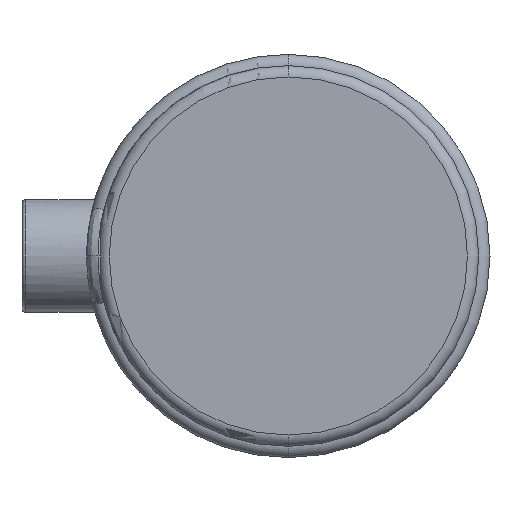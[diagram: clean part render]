
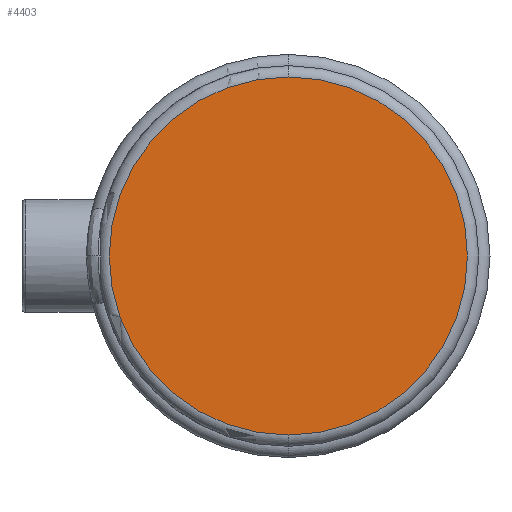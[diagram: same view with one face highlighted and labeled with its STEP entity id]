
A CAD part, left-side view. The second image highlights one B-rep face of the part: STEP entity #4403.
In plain terms, the highlighted planar face has unit normal (-1, 0, 0).
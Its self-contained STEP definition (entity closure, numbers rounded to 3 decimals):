
#127 = VERTEX_POINT ( 'NONE', #4673 ) ;
#952 = FACE_OUTER_BOUND ( 'NONE', #5756, .T. ) ;
#1396 = ORIENTED_EDGE ( 'NONE', *, *, #5234, .T. ) ;
#1479 = DIRECTION ( 'NONE',  ( -1., 0., 0. ) ) ;
#1605 = DIRECTION ( 'NONE',  ( -1., 0., 0. ) ) ;
#2055 = EDGE_CURVE ( 'NONE', #127, #2685, #4014, .T. ) ;
#2279 = PLANE ( 'NONE',  #5976 ) ;
#2685 = VERTEX_POINT ( 'NONE', #3216 ) ;
#2714 = CARTESIAN_POINT ( 'NONE',  ( 0., 0., 0. ) ) ;
#2729 = DIRECTION ( 'NONE',  ( 0., 0., 1. ) ) ;
#2847 = AXIS2_PLACEMENT_3D ( 'NONE', #4225, #1479, #4677 ) ;
#3216 = CARTESIAN_POINT ( 'NONE',  ( 0., 0., 47.6 ) ) ;
#4014 = CIRCLE ( 'NONE', #5406, 47.6 ) ;
#4225 = CARTESIAN_POINT ( 'NONE',  ( 0., 0., 0. ) ) ;
#4346 = CARTESIAN_POINT ( 'NONE',  ( 0., 0., 0. ) ) ;
#4403 = ADVANCED_FACE ( 'NONE', ( #952 ), #2279, .T. ) ;
#4673 = CARTESIAN_POINT ( 'NONE',  ( 0., 0., -47.6 ) ) ;
#4677 = DIRECTION ( 'NONE',  ( 0., 0., 1. ) ) ;
#4800 = DIRECTION ( 'NONE',  ( 0., 0., 1. ) ) ;
#5234 = EDGE_CURVE ( 'NONE', #2685, #127, #5271, .T. ) ;
#5271 = CIRCLE ( 'NONE', #2847, 47.6 ) ;
#5406 = AXIS2_PLACEMENT_3D ( 'NONE', #4346, #1605, #4800 ) ;
#5451 = DIRECTION ( 'NONE',  ( -1., 0., 0. ) ) ;
#5756 = EDGE_LOOP ( 'NONE', ( #1396, #5799 ) ) ;
#5799 = ORIENTED_EDGE ( 'NONE', *, *, #2055, .T. ) ;
#5976 = AXIS2_PLACEMENT_3D ( 'NONE', #2714, #5451, #2729 ) ;
